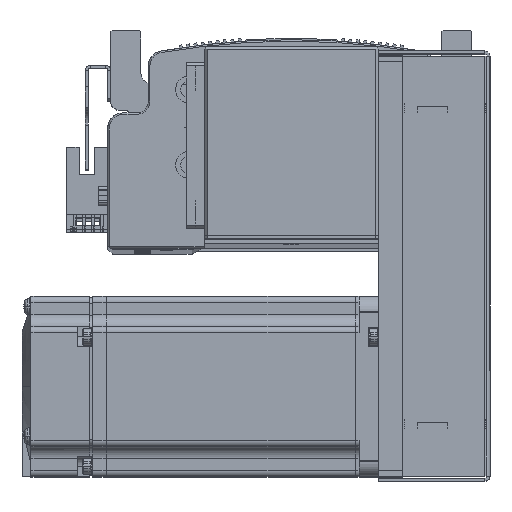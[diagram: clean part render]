
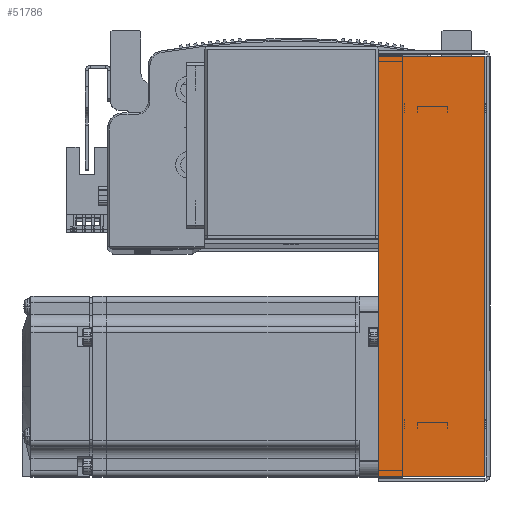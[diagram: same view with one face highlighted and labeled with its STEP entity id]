
A CAD part, top view. The second image highlights one B-rep face of the part: STEP entity #51786.
In plain terms, the highlighted planar face has unit normal (0, 0, 1).
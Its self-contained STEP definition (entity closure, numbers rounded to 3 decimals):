
#1365 = CARTESIAN_POINT ( 'NONE',  ( -71.5, 0.737, 33.5 ) ) ;
#1374 = DIRECTION ( 'NONE',  ( -1., 0., 0. ) ) ;
#6720 = EDGE_CURVE ( 'NONE', #34589, #34569, #80907, .T. ) ;
#6762 = EDGE_CURVE ( 'NONE', #34569, #34563, #80942, .T. ) ;
#6811 = EDGE_CURVE ( 'NONE', #34589, #34601, #80947, .T. ) ;
#6821 = EDGE_CURVE ( 'NONE', #34601, #34563, #80895, .T. ) ;
#27584 = ORIENTED_EDGE ( 'NONE', *, *, #6821, .F. ) ;
#27588 = ORIENTED_EDGE ( 'NONE', *, *, #6762, .T. ) ;
#27589 = ORIENTED_EDGE ( 'NONE', *, *, #6720, .T. ) ;
#27693 = ORIENTED_EDGE ( 'NONE', *, *, #6811, .F. ) ;
#32861 = CARTESIAN_POINT ( 'NONE',  ( 69.793, 36., 33.5 ) ) ;
#32903 = CARTESIAN_POINT ( 'NONE',  ( -69.793, 36., 33.5 ) ) ;
#32918 = CARTESIAN_POINT ( 'NONE',  ( -69.793, 0.737, 33.5 ) ) ;
#32967 = CARTESIAN_POINT ( 'NONE',  ( 69.793, 0.737, 33.5 ) ) ;
#32976 = CARTESIAN_POINT ( 'NONE',  ( -69.793, 0., 33.5 ) ) ;
#32977 = DIRECTION ( 'NONE',  ( 0., 1., 0. ) ) ;
#34563 = VERTEX_POINT ( 'NONE', #32903 ) ;
#34569 = VERTEX_POINT ( 'NONE', #32861 ) ;
#34589 = VERTEX_POINT ( 'NONE', #32967 ) ;
#34601 = VERTEX_POINT ( 'NONE', #32918 ) ;
#37335 = EDGE_LOOP ( 'NONE', ( #27693, #27589, #27588, #27584 ) ) ;
#42206 = CARTESIAN_POINT ( 'NONE',  ( 0., 36., 33.5 ) ) ;
#42215 = DIRECTION ( 'NONE',  ( -1., 0., 0. ) ) ;
#42275 = CARTESIAN_POINT ( 'NONE',  ( 69.793, 0., 33.5 ) ) ;
#42276 = DIRECTION ( 'NONE',  ( 0., 1., 0. ) ) ;
#51786 = ADVANCED_FACE ( 'NONE', ( #68829 ), #56823, .F. ) ;
#56792 = DIRECTION ( 'NONE',  ( 0., 0., -1. ) ) ;
#56805 = DIRECTION ( 'NONE',  ( -1., 0., 0. ) ) ;
#56820 = CARTESIAN_POINT ( 'NONE',  ( 0., 0., 33.5 ) ) ;
#56823 = PLANE ( 'NONE',  #82701 ) ;
#68829 = FACE_OUTER_BOUND ( 'NONE', #37335, .T. ) ;
#80875 = VECTOR ( 'NONE', #42215, 1000. ) ;
#80895 = LINE ( 'NONE', #32976, #80954 ) ;
#80907 = LINE ( 'NONE', #42275, #80957 ) ;
#80942 = LINE ( 'NONE', #42206, #80875 ) ;
#80947 = LINE ( 'NONE', #1365, #80949 ) ;
#80949 = VECTOR ( 'NONE', #1374, 1000. ) ;
#80954 = VECTOR ( 'NONE', #32977, 1000. ) ;
#80957 = VECTOR ( 'NONE', #42276, 1000. ) ;
#82701 = AXIS2_PLACEMENT_3D ( 'NONE', #56820, #56792, #56805 ) ;
